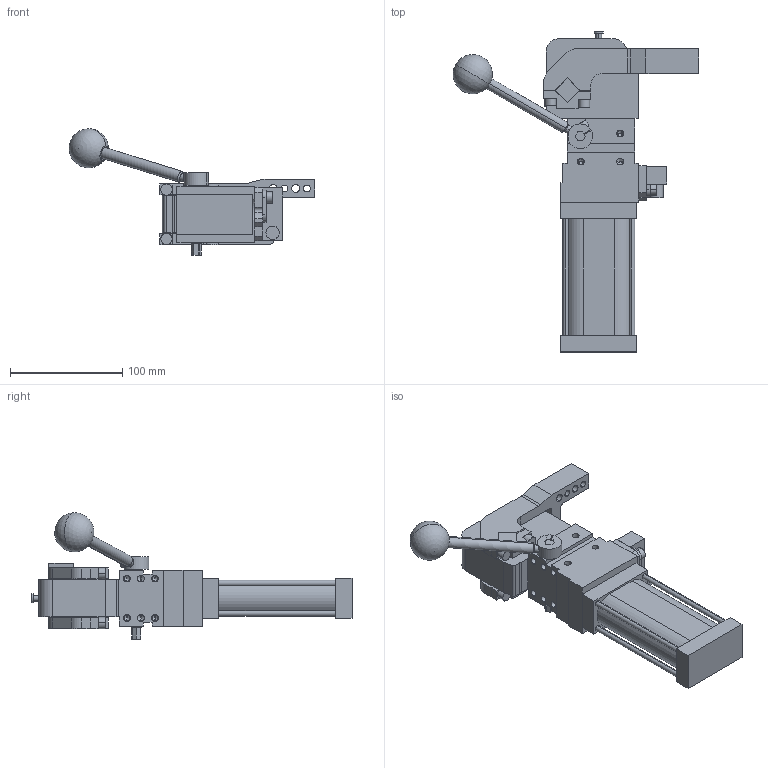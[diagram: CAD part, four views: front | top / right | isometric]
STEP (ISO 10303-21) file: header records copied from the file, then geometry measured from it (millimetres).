
FILE_DESCRIPTION (( 'STEP AP214' ), '1' );
FILE_NAME ('cplm40lav1ssi1g_31.STEP', '2021-05-25T11:54:12', ( '' ), ( '' ), 'SwSTEP 2.0', 'SolidWorks 2021', '' );
FILE_SCHEMA (( 'AUTOMOTIVE_DESIGN' ));
Length unit declared in the file: millimetre
Products named in the file (6): cplm40lav1ssi1g_31; blocchetto_VEP_0_cpl40; piastra_blocchetto_cpl40; meccanica_cplm40; comando_manuale_cplm_40; leva_v1d_cpl40
Assembly tree (5 placements, depth 2):
  cplm40lav1ssi1g_31
    meccanica_cplm40
    leva_v1d_cpl40
    blocchetto_VEP_0_cpl40
    piastra_blocchetto_cpl40
    comando_manuale_cplm_40
Bounding box: 218.62 x 285 x 112.66 mm (x, y, z)
Volume: 808327.5 mm3; surface area: 126749 mm2
Topology: 6 solids, 6 shells, 467 faces, 1201 edges, 757 vertices
Faces by surface type: plane 259, cylinder 160, cone 46, sphere 2
Entity records: 15517 total; most frequent: CARTESIAN_POINT 2501, DIRECTION 2476, ORIENTED_EDGE 2308, EDGE_CURVE 1154, AXIS2_PLACEMENT_3D 851, VECTOR 774, LINE 774, VERTEX_POINT 754
